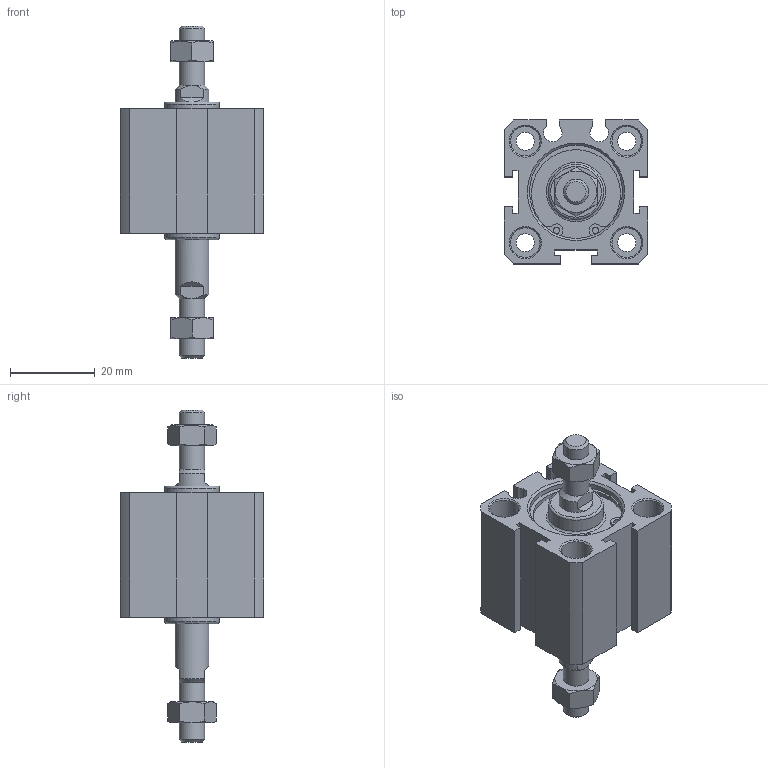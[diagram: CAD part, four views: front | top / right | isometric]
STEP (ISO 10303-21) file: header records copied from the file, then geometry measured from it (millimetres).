
FILE_DESCRIPTION((''),'2;1');
FILE_NAME('I:\3D電子目錄\氣缸\JDD\JDD-B\JDD20-B\JDD20x20-B.stp','2007-02-09T09:57:43',('662F206'),(''),'Autodesk Inventor 10','Autodesk Inventor 10','');
FILE_SCHEMA(('AUTOMOTIVE_DESIGN { 1 0 10303 214 1 1 1 1 }'));
Length unit declared in the file: millimetre
Products named in the file (3): JDD20-B; R 形環 23
Assembly tree (3 placements, depth 2):
  JDD20-B
    JDD20-B
    R 形環 23  x2
Bounding box: 34 x 34 x 78.5 mm (x, y, z)
Volume: 28714.3 mm3; surface area: 12582.6 mm2
Topology: 3 solids, 3 shells, 179 faces, 407 edges, 260 vertices
Faces by surface type: plane 84, cylinder 51, cone 32, bspline 10, torus 2
Full cylindrical faces by diameter (mm): 1.5 x6, 4.3 x4, 6 x4, 7 x8, 8 x1, 13 x2, 22 x4, 23.2 x2
Entity records: 4509 total; most frequent: CARTESIAN_POINT 953, DIRECTION 732, ORIENTED_EDGE 638, EDGE_CURVE 319, AXIS2_PLACEMENT_3D 294, EDGE_LOOP 256, VERTEX_POINT 233, FACE_OUTER_BOUND 167
